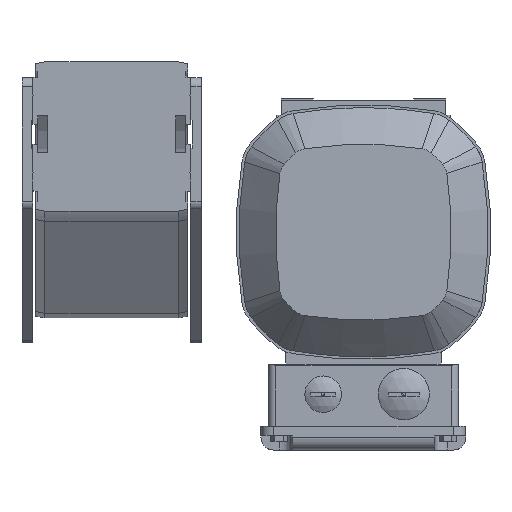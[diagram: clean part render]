
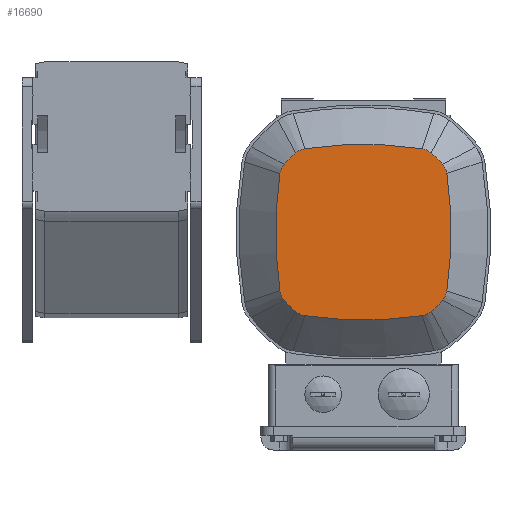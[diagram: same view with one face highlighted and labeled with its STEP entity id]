
A CAD part, left-side view. The second image highlights one B-rep face of the part: STEP entity #16690.
In plain terms, the highlighted planar face has unit normal (-1, 0, 0).
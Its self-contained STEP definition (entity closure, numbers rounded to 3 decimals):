
#16523=CARTESIAN_POINT('',(-330.5,-122.209,-157.906));
#16524=DIRECTION('',(-1.0,0.0,0.0));
#16525=DIRECTION('',(0.0,0.0,1.0));
#16526=AXIS2_PLACEMENT_3D('',#16523,#16524,#16525);
#16527=PLANE('',#16526);
#16528=CARTESIAN_POINT('',(-330.5,-169.586,-47.425));
#16529=VERTEX_POINT('',#16528);
#16530=CARTESIAN_POINT('',(-330.5,-105.414,-47.425));
#16531=VERTEX_POINT('',#16530);
#16532=CARTESIAN_POINT('',(-330.5,-137.5,-258.5));
#16533=DIRECTION('',(-1.0,0.0,0.0));
#16534=DIRECTION('',(0.0,0.0,1.0));
#16535=AXIS2_PLACEMENT_3D('',#16532,#16533,#16534);
#16536=CIRCLE('',#16535,213.5);
#16537=EDGE_CURVE('',#16529,#16531,#16536,.T.);
#16538=ORIENTED_EDGE('',*,*,#16537,.T.);
#16539=CARTESIAN_POINT('',(-330.5,-100.41,-49.718));
#16540=VERTEX_POINT('',#16539);
#16541=CARTESIAN_POINT('',(-330.5,-105.414,-47.425));
#16542=CARTESIAN_POINT('',(-330.5,-104.499,-47.564));
#16543=CARTESIAN_POINT('',(-330.5,-103.594,-47.834));
#16544=CARTESIAN_POINT('',(-330.5,-101.909,-48.606));
#16545=CARTESIAN_POINT('',(-330.5,-101.114,-49.115));
#16546=CARTESIAN_POINT('',(-330.5,-100.41,-49.718));
#16547=B_SPLINE_CURVE_WITH_KNOTS('',3,(#16541,#16542,#16543,#16544,#16545,#16546),.UNSPECIFIED.,.F.,.U.,(4,2,4),(-0.556,-0.278,0.0),.UNSPECIFIED.);
#16548=EDGE_CURVE('',#16531,#16540,#16547,.T.);
#16549=ORIENTED_EDGE('',*,*,#16548,.T.);
#16550=CARTESIAN_POINT('',(-330.5,-94.218,-55.91));
#16551=VERTEX_POINT('',#16550);
#16552=CARTESIAN_POINT('',(-330.5,-137.5,-93.));
#16553=DIRECTION('',(-1.0,0.0,0.0));
#16554=DIRECTION('',(0.0,0.0,1.0));
#16555=AXIS2_PLACEMENT_3D('',#16552,#16553,#16554);
#16556=CIRCLE('',#16555,57.0);
#16557=EDGE_CURVE('',#16540,#16551,#16556,.T.);
#16558=ORIENTED_EDGE('',*,*,#16557,.T.);
#16559=CARTESIAN_POINT('',(-330.5,-91.925,-60.914));
#16560=VERTEX_POINT('',#16559);
#16561=CARTESIAN_POINT('',(-330.5,-94.218,-55.91));
#16562=CARTESIAN_POINT('',(-330.5,-93.615,-56.614));
#16563=CARTESIAN_POINT('',(-330.5,-93.106,-57.409));
#16564=CARTESIAN_POINT('',(-330.5,-92.334,-59.094));
#16565=CARTESIAN_POINT('',(-330.5,-92.064,-59.999));
#16566=CARTESIAN_POINT('',(-330.5,-91.925,-60.914));
#16567=B_SPLINE_CURVE_WITH_KNOTS('',3,(#16561,#16562,#16563,#16564,#16565,#16566),.UNSPECIFIED.,.F.,.U.,(4,2,4),(-0.556,-0.278,0.0),.UNSPECIFIED.);
#16568=EDGE_CURVE('',#16551,#16560,#16567,.T.);
#16569=ORIENTED_EDGE('',*,*,#16568,.T.);
#16570=CARTESIAN_POINT('',(-330.5,-91.925,-125.086));
#16571=VERTEX_POINT('',#16570);
#16572=CARTESIAN_POINT('',(-330.5,-303.0,-93.));
#16573=DIRECTION('',(-1.0,0.0,0.0));
#16574=DIRECTION('',(0.0,0.0,1.0));
#16575=AXIS2_PLACEMENT_3D('',#16572,#16573,#16574);
#16576=CIRCLE('',#16575,213.5);
#16577=EDGE_CURVE('',#16560,#16571,#16576,.T.);
#16578=ORIENTED_EDGE('',*,*,#16577,.T.);
#16579=CARTESIAN_POINT('',(-330.5,-94.218,-130.09));
#16580=VERTEX_POINT('',#16579);
#16581=CARTESIAN_POINT('',(-330.5,-91.925,-125.086));
#16582=CARTESIAN_POINT('',(-330.5,-92.064,-126.001));
#16583=CARTESIAN_POINT('',(-330.5,-92.334,-126.906));
#16584=CARTESIAN_POINT('',(-330.5,-93.106,-128.591));
#16585=CARTESIAN_POINT('',(-330.5,-93.615,-129.386));
#16586=CARTESIAN_POINT('',(-330.5,-94.218,-130.09));
#16587=B_SPLINE_CURVE_WITH_KNOTS('',3,(#16581,#16582,#16583,#16584,#16585,#16586),.UNSPECIFIED.,.F.,.U.,(4,2,4),(-0.556,-0.278,0.0),.UNSPECIFIED.);
#16588=EDGE_CURVE('',#16571,#16580,#16587,.T.);
#16589=ORIENTED_EDGE('',*,*,#16588,.T.);
#16590=CARTESIAN_POINT('',(-330.5,-100.41,-136.282));
#16591=VERTEX_POINT('',#16590);
#16592=CARTESIAN_POINT('',(-330.5,-137.5,-93.));
#16593=DIRECTION('',(-1.0,0.0,0.0));
#16594=DIRECTION('',(0.0,0.0,1.0));
#16595=AXIS2_PLACEMENT_3D('',#16592,#16593,#16594);
#16596=CIRCLE('',#16595,57.0);
#16597=EDGE_CURVE('',#16580,#16591,#16596,.T.);
#16598=ORIENTED_EDGE('',*,*,#16597,.T.);
#16599=CARTESIAN_POINT('',(-330.5,-105.414,-138.575));
#16600=VERTEX_POINT('',#16599);
#16601=CARTESIAN_POINT('',(-330.5,-100.41,-136.282));
#16602=CARTESIAN_POINT('',(-330.5,-101.114,-136.885));
#16603=CARTESIAN_POINT('',(-330.5,-101.909,-137.394));
#16604=CARTESIAN_POINT('',(-330.5,-103.594,-138.166));
#16605=CARTESIAN_POINT('',(-330.5,-104.499,-138.436));
#16606=CARTESIAN_POINT('',(-330.5,-105.414,-138.575));
#16607=B_SPLINE_CURVE_WITH_KNOTS('',3,(#16601,#16602,#16603,#16604,#16605,#16606),.UNSPECIFIED.,.F.,.U.,(4,2,4),(-0.556,-0.278,0.0),.UNSPECIFIED.);
#16608=EDGE_CURVE('',#16591,#16600,#16607,.T.);
#16609=ORIENTED_EDGE('',*,*,#16608,.T.);
#16610=CARTESIAN_POINT('',(-330.5,-169.586,-138.575));
#16611=VERTEX_POINT('',#16610);
#16612=CARTESIAN_POINT('',(-330.5,-137.5,72.5));
#16613=DIRECTION('',(-1.0,0.0,0.0));
#16614=DIRECTION('',(0.0,0.0,1.0));
#16615=AXIS2_PLACEMENT_3D('',#16612,#16613,#16614);
#16616=CIRCLE('',#16615,213.5);
#16617=EDGE_CURVE('',#16600,#16611,#16616,.T.);
#16618=ORIENTED_EDGE('',*,*,#16617,.T.);
#16619=CARTESIAN_POINT('',(-330.5,-174.59,-136.282));
#16620=VERTEX_POINT('',#16619);
#16621=CARTESIAN_POINT('',(-330.5,-169.586,-138.575));
#16622=CARTESIAN_POINT('',(-330.5,-170.501,-138.436));
#16623=CARTESIAN_POINT('',(-330.5,-171.406,-138.166));
#16624=CARTESIAN_POINT('',(-330.5,-173.091,-137.394));
#16625=CARTESIAN_POINT('',(-330.5,-173.886,-136.885));
#16626=CARTESIAN_POINT('',(-330.5,-174.59,-136.282));
#16627=B_SPLINE_CURVE_WITH_KNOTS('',3,(#16621,#16622,#16623,#16624,#16625,#16626),.UNSPECIFIED.,.F.,.U.,(4,2,4),(-0.556,-0.278,0.0),.UNSPECIFIED.);
#16628=EDGE_CURVE('',#16611,#16620,#16627,.T.);
#16629=ORIENTED_EDGE('',*,*,#16628,.T.);
#16630=CARTESIAN_POINT('',(-330.5,-180.782,-130.09));
#16631=VERTEX_POINT('',#16630);
#16632=CARTESIAN_POINT('',(-330.5,-137.5,-93.));
#16633=DIRECTION('',(-1.0,0.0,0.0));
#16634=DIRECTION('',(0.0,0.0,1.0));
#16635=AXIS2_PLACEMENT_3D('',#16632,#16633,#16634);
#16636=CIRCLE('',#16635,57.0);
#16637=EDGE_CURVE('',#16620,#16631,#16636,.T.);
#16638=ORIENTED_EDGE('',*,*,#16637,.T.);
#16639=CARTESIAN_POINT('',(-330.5,-183.075,-125.086));
#16640=VERTEX_POINT('',#16639);
#16641=CARTESIAN_POINT('',(-330.5,-180.782,-130.09));
#16642=CARTESIAN_POINT('',(-330.5,-181.385,-129.386));
#16643=CARTESIAN_POINT('',(-330.5,-181.894,-128.591));
#16644=CARTESIAN_POINT('',(-330.5,-182.666,-126.906));
#16645=CARTESIAN_POINT('',(-330.5,-182.936,-126.001));
#16646=CARTESIAN_POINT('',(-330.5,-183.075,-125.086));
#16647=B_SPLINE_CURVE_WITH_KNOTS('',3,(#16641,#16642,#16643,#16644,#16645,#16646),.UNSPECIFIED.,.F.,.U.,(4,2,4),(-0.556,-0.278,0.0),.UNSPECIFIED.);
#16648=EDGE_CURVE('',#16631,#16640,#16647,.T.);
#16649=ORIENTED_EDGE('',*,*,#16648,.T.);
#16650=CARTESIAN_POINT('',(-330.5,-183.075,-60.914));
#16651=VERTEX_POINT('',#16650);
#16652=CARTESIAN_POINT('',(-330.5,28.,-93.));
#16653=DIRECTION('',(-1.0,0.0,0.0));
#16654=DIRECTION('',(0.0,0.0,1.0));
#16655=AXIS2_PLACEMENT_3D('',#16652,#16653,#16654);
#16656=CIRCLE('',#16655,213.5);
#16657=EDGE_CURVE('',#16640,#16651,#16656,.T.);
#16658=ORIENTED_EDGE('',*,*,#16657,.T.);
#16659=CARTESIAN_POINT('',(-330.5,-180.782,-55.91));
#16660=VERTEX_POINT('',#16659);
#16661=CARTESIAN_POINT('',(-330.5,-183.075,-60.914));
#16662=CARTESIAN_POINT('',(-330.5,-182.936,-59.999));
#16663=CARTESIAN_POINT('',(-330.5,-182.666,-59.094));
#16664=CARTESIAN_POINT('',(-330.5,-181.894,-57.409));
#16665=CARTESIAN_POINT('',(-330.5,-181.385,-56.614));
#16666=CARTESIAN_POINT('',(-330.5,-180.782,-55.91));
#16667=B_SPLINE_CURVE_WITH_KNOTS('',3,(#16661,#16662,#16663,#16664,#16665,#16666),.UNSPECIFIED.,.F.,.U.,(4,2,4),(-0.556,-0.278,0.0),.UNSPECIFIED.);
#16668=EDGE_CURVE('',#16651,#16660,#16667,.T.);
#16669=ORIENTED_EDGE('',*,*,#16668,.T.);
#16670=CARTESIAN_POINT('',(-330.5,-174.59,-49.718));
#16671=VERTEX_POINT('',#16670);
#16672=CARTESIAN_POINT('',(-330.5,-137.5,-93.));
#16673=DIRECTION('',(-1.0,0.0,0.0));
#16674=DIRECTION('',(0.0,0.0,1.0));
#16675=AXIS2_PLACEMENT_3D('',#16672,#16673,#16674);
#16676=CIRCLE('',#16675,57.);
#16677=EDGE_CURVE('',#16660,#16671,#16676,.T.);
#16678=ORIENTED_EDGE('',*,*,#16677,.T.);
#16679=CARTESIAN_POINT('',(-330.5,-174.59,-49.718));
#16680=CARTESIAN_POINT('',(-330.5,-173.886,-49.115));
#16681=CARTESIAN_POINT('',(-330.5,-173.091,-48.606));
#16682=CARTESIAN_POINT('',(-330.5,-171.406,-47.834));
#16683=CARTESIAN_POINT('',(-330.5,-170.501,-47.564));
#16684=CARTESIAN_POINT('',(-330.5,-169.586,-47.425));
#16685=B_SPLINE_CURVE_WITH_KNOTS('',3,(#16679,#16680,#16681,#16682,#16683,#16684),.UNSPECIFIED.,.F.,.U.,(4,2,4),(-0.556,-0.278,0.0),.UNSPECIFIED.);
#16686=EDGE_CURVE('',#16671,#16529,#16685,.T.);
#16687=ORIENTED_EDGE('',*,*,#16686,.T.);
#16688=EDGE_LOOP('',(#16538,#16549,#16558,#16569,#16578,#16589,#16598,#16609,#16618,#16629,#16638,#16649,#16658,#16669,#16678,#16687));
#16689=FACE_OUTER_BOUND('',#16688,.T.);
#16690=ADVANCED_FACE('',(#16689),#16527,.T.);
